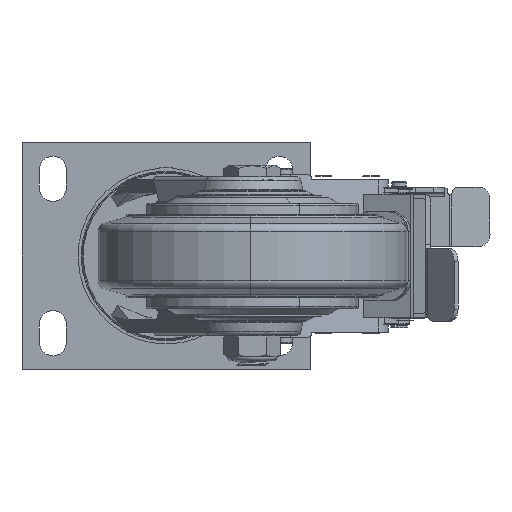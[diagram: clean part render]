
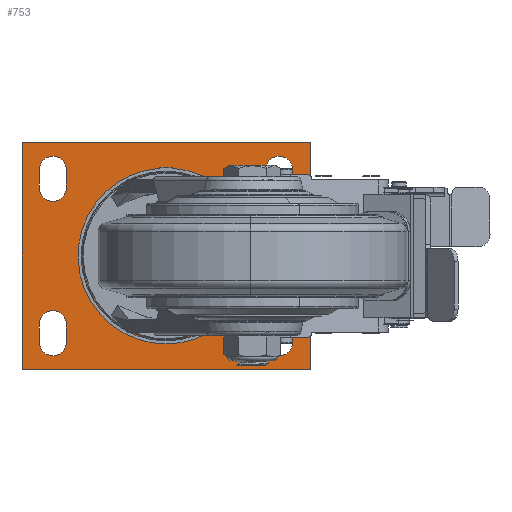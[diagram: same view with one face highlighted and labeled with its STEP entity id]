
A CAD part, front view. The second image highlights one B-rep face of the part: STEP entity #753.
In plain terms, the highlighted planar face has unit normal (0, -1, 0).
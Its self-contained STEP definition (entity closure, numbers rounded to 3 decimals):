
#158=CARTESIAN_POINT('',(0.,-8.,0.));
#159=DIRECTION('',(0.,-1.,0.));
#160=DIRECTION('',(1.,0.,0.));
#161=AXIS2_PLACEMENT_3D('',#158,#159,#160);
#163=CARTESIAN_POINT('',(0.,-8.,0.));
#164=DIRECTION('',(0.,-1.,0.));
#165=DIRECTION('',(-1.,0.,0.));
#166=AXIS2_PLACEMENT_3D('',#163,#164,#165);
#168=DIRECTION('',(0.,0.,-1.));
#169=VECTOR('',#168,110.);
#170=CARTESIAN_POINT('',(-70.,-8.,55.));
#171=LINE('',#170,#169);
#172=DIRECTION('',(-1.,0.,0.));
#173=VECTOR('',#172,140.);
#174=CARTESIAN_POINT('',(70.,-8.,55.));
#175=LINE('',#174,#173);
#176=DIRECTION('',(0.,0.,1.));
#177=VECTOR('',#176,110.);
#178=CARTESIAN_POINT('',(70.,-8.,-55.));
#179=LINE('',#178,#177);
#180=DIRECTION('',(1.,0.,0.));
#181=VECTOR('',#180,140.);
#182=CARTESIAN_POINT('',(-70.,-8.,-55.));
#183=LINE('',#182,#181);
#184=CARTESIAN_POINT('',(-55.,-8.,42.));
#185=DIRECTION('',(0.,1.,0.));
#186=DIRECTION('',(-1.,0.,0.));
#187=AXIS2_PLACEMENT_3D('',#184,#185,#186);
#189=DIRECTION('',(0.,0.,1.));
#190=VECTOR('',#189,9.);
#191=CARTESIAN_POINT('',(-61.5,-8.,33.));
#192=LINE('',#191,#190);
#193=CARTESIAN_POINT('',(-55.,-8.,33.));
#194=DIRECTION('',(0.,1.,0.));
#195=DIRECTION('',(1.,0.,0.));
#196=AXIS2_PLACEMENT_3D('',#193,#194,#195);
#198=DIRECTION('',(0.,0.,-1.));
#199=VECTOR('',#198,9.);
#200=CARTESIAN_POINT('',(-48.5,-8.,42.));
#201=LINE('',#200,#199);
#202=CARTESIAN_POINT('',(-55.,-8.,-42.));
#203=DIRECTION('',(0.,-1.,0.));
#204=DIRECTION('',(-1.,0.,0.));
#205=AXIS2_PLACEMENT_3D('',#202,#203,#204);
#207=DIRECTION('',(0.,0.,1.));
#208=VECTOR('',#207,9.);
#209=CARTESIAN_POINT('',(-48.5,-8.,-42.));
#210=LINE('',#209,#208);
#211=CARTESIAN_POINT('',(-55.,-8.,-33.));
#212=DIRECTION('',(0.,-1.,0.));
#213=DIRECTION('',(1.,0.,0.));
#214=AXIS2_PLACEMENT_3D('',#211,#212,#213);
#216=DIRECTION('',(0.,0.,-1.));
#217=VECTOR('',#216,9.);
#218=CARTESIAN_POINT('',(-61.5,-8.,-33.));
#219=LINE('',#218,#217);
#220=CARTESIAN_POINT('',(55.,-8.,42.));
#221=DIRECTION('',(0.,-1.,0.));
#222=DIRECTION('',(1.,0.,0.));
#223=AXIS2_PLACEMENT_3D('',#220,#221,#222);
#225=DIRECTION('',(0.,0.,-1.));
#226=VECTOR('',#225,9.);
#227=CARTESIAN_POINT('',(48.5,-8.,42.));
#228=LINE('',#227,#226);
#229=CARTESIAN_POINT('',(55.,-8.,33.));
#230=DIRECTION('',(0.,-1.,0.));
#231=DIRECTION('',(-1.,0.,0.));
#232=AXIS2_PLACEMENT_3D('',#229,#230,#231);
#234=DIRECTION('',(0.,0.,1.));
#235=VECTOR('',#234,9.);
#236=CARTESIAN_POINT('',(61.5,-8.,33.));
#237=LINE('',#236,#235);
#238=CARTESIAN_POINT('',(55.,-8.,-42.));
#239=DIRECTION('',(0.,1.,0.));
#240=DIRECTION('',(1.,0.,0.));
#241=AXIS2_PLACEMENT_3D('',#238,#239,#240);
#243=DIRECTION('',(0.,0.,-1.));
#244=VECTOR('',#243,9.);
#245=CARTESIAN_POINT('',(61.5,-8.,-33.));
#246=LINE('',#245,#244);
#247=CARTESIAN_POINT('',(55.,-8.,-33.));
#248=DIRECTION('',(0.,1.,0.));
#249=DIRECTION('',(-1.,0.,0.));
#250=AXIS2_PLACEMENT_3D('',#247,#248,#249);
#252=DIRECTION('',(0.,0.,1.));
#253=VECTOR('',#252,9.);
#254=CARTESIAN_POINT('',(48.5,-8.,-42.));
#255=LINE('',#254,#253);
#414=CARTESIAN_POINT('',(-36.742,-8.,0.));
#415=CARTESIAN_POINT('',(36.742,-8.,0.));
#416=VERTEX_POINT('',#414);
#417=VERTEX_POINT('',#415);
#426=CARTESIAN_POINT('',(-70.,-8.,55.));
#427=CARTESIAN_POINT('',(-70.,-8.,-55.));
#428=VERTEX_POINT('',#426);
#429=VERTEX_POINT('',#427);
#430=CARTESIAN_POINT('',(70.,-8.,-55.));
#431=VERTEX_POINT('',#430);
#432=CARTESIAN_POINT('',(70.,-8.,55.));
#433=VERTEX_POINT('',#432);
#442=CARTESIAN_POINT('',(-61.5,-8.,42.));
#443=CARTESIAN_POINT('',(-48.5,-8.,42.));
#444=VERTEX_POINT('',#442);
#445=VERTEX_POINT('',#443);
#446=CARTESIAN_POINT('',(-48.5,-8.,33.));
#447=VERTEX_POINT('',#446);
#448=CARTESIAN_POINT('',(-61.5,-8.,33.));
#449=VERTEX_POINT('',#448);
#451=CARTESIAN_POINT('',(-61.5,-8.,-42.));
#453=VERTEX_POINT('',#451);
#455=CARTESIAN_POINT('',(-48.5,-8.,-42.));
#457=VERTEX_POINT('',#455);
#459=CARTESIAN_POINT('',(-48.5,-8.,-33.));
#461=VERTEX_POINT('',#459);
#463=CARTESIAN_POINT('',(-61.5,-8.,-33.));
#465=VERTEX_POINT('',#463);
#467=CARTESIAN_POINT('',(61.5,-8.,42.));
#469=VERTEX_POINT('',#467);
#471=CARTESIAN_POINT('',(48.5,-8.,42.));
#473=VERTEX_POINT('',#471);
#475=CARTESIAN_POINT('',(48.5,-8.,33.));
#477=VERTEX_POINT('',#475);
#479=CARTESIAN_POINT('',(61.5,-8.,33.));
#481=VERTEX_POINT('',#479);
#483=CARTESIAN_POINT('',(61.5,-8.,-42.));
#485=VERTEX_POINT('',#483);
#487=CARTESIAN_POINT('',(48.5,-8.,-42.));
#489=VERTEX_POINT('',#487);
#491=CARTESIAN_POINT('',(48.5,-8.,-33.));
#493=VERTEX_POINT('',#491);
#495=CARTESIAN_POINT('',(61.5,-8.,-33.));
#497=VERTEX_POINT('',#495);
#692=CARTESIAN_POINT('',(0.,-8.,0.));
#693=DIRECTION('',(0.,-1.,0.));
#694=DIRECTION('',(-1.,0.,0.));
#695=AXIS2_PLACEMENT_3D('',#692,#693,#694);
#696=PLANE('',#695);
#698=ORIENTED_EDGE('',*,*,#697,.F.);
#700=ORIENTED_EDGE('',*,*,#699,.F.);
#702=ORIENTED_EDGE('',*,*,#701,.F.);
#704=ORIENTED_EDGE('',*,*,#703,.F.);
#705=EDGE_LOOP('',(#698,#700,#702,#704));
#706=FACE_OUTER_BOUND('',#705,.F.);
#708=ORIENTED_EDGE('',*,*,#707,.T.);
#710=ORIENTED_EDGE('',*,*,#709,.T.);
#711=EDGE_LOOP('',(#708,#710));
#712=FACE_BOUND('',#711,.F.);
#714=ORIENTED_EDGE('',*,*,#713,.F.);
#716=ORIENTED_EDGE('',*,*,#715,.F.);
#718=ORIENTED_EDGE('',*,*,#717,.F.);
#720=ORIENTED_EDGE('',*,*,#719,.F.);
#721=EDGE_LOOP('',(#714,#716,#718,#720));
#722=FACE_BOUND('',#721,.F.);
#724=ORIENTED_EDGE('',*,*,#723,.T.);
#726=ORIENTED_EDGE('',*,*,#725,.T.);
#728=ORIENTED_EDGE('',*,*,#727,.T.);
#730=ORIENTED_EDGE('',*,*,#729,.T.);
#731=EDGE_LOOP('',(#724,#726,#728,#730));
#732=FACE_BOUND('',#731,.F.);
#734=ORIENTED_EDGE('',*,*,#733,.T.);
#736=ORIENTED_EDGE('',*,*,#735,.T.);
#738=ORIENTED_EDGE('',*,*,#737,.T.);
#740=ORIENTED_EDGE('',*,*,#739,.T.);
#741=EDGE_LOOP('',(#734,#736,#738,#740));
#742=FACE_BOUND('',#741,.F.);
#744=ORIENTED_EDGE('',*,*,#743,.F.);
#746=ORIENTED_EDGE('',*,*,#745,.F.);
#748=ORIENTED_EDGE('',*,*,#747,.F.);
#750=ORIENTED_EDGE('',*,*,#749,.F.);
#751=EDGE_LOOP('',(#744,#746,#748,#750));
#752=FACE_BOUND('',#751,.F.);
#162=CIRCLE('',#161,36.742);
#167=CIRCLE('',#166,36.742);
#188=CIRCLE('',#187,6.5);
#197=CIRCLE('',#196,6.5);
#206=CIRCLE('',#205,6.5);
#215=CIRCLE('',#214,6.5);
#224=CIRCLE('',#223,6.5);
#233=CIRCLE('',#232,6.5);
#242=CIRCLE('',#241,6.5);
#251=CIRCLE('',#250,6.5);
#697=EDGE_CURVE('',#428,#429,#171,.T.);
#699=EDGE_CURVE('',#433,#428,#175,.T.);
#701=EDGE_CURVE('',#431,#433,#179,.T.);
#703=EDGE_CURVE('',#429,#431,#183,.T.);
#707=EDGE_CURVE('',#417,#416,#162,.T.);
#709=EDGE_CURVE('',#416,#417,#167,.T.);
#713=EDGE_CURVE('',#444,#445,#188,.T.);
#715=EDGE_CURVE('',#449,#444,#192,.T.);
#717=EDGE_CURVE('',#447,#449,#197,.T.);
#719=EDGE_CURVE('',#445,#447,#201,.T.);
#723=EDGE_CURVE('',#453,#457,#206,.T.);
#725=EDGE_CURVE('',#457,#461,#210,.T.);
#727=EDGE_CURVE('',#461,#465,#215,.T.);
#729=EDGE_CURVE('',#465,#453,#219,.T.);
#733=EDGE_CURVE('',#469,#473,#224,.T.);
#735=EDGE_CURVE('',#473,#477,#228,.T.);
#737=EDGE_CURVE('',#477,#481,#233,.T.);
#739=EDGE_CURVE('',#481,#469,#237,.T.);
#743=EDGE_CURVE('',#485,#489,#242,.T.);
#745=EDGE_CURVE('',#497,#485,#246,.T.);
#747=EDGE_CURVE('',#493,#497,#251,.T.);
#749=EDGE_CURVE('',#489,#493,#255,.T.);
#753=ADVANCED_FACE('',(#706,#712,#722,#732,#742,#752),#696,.T.);
